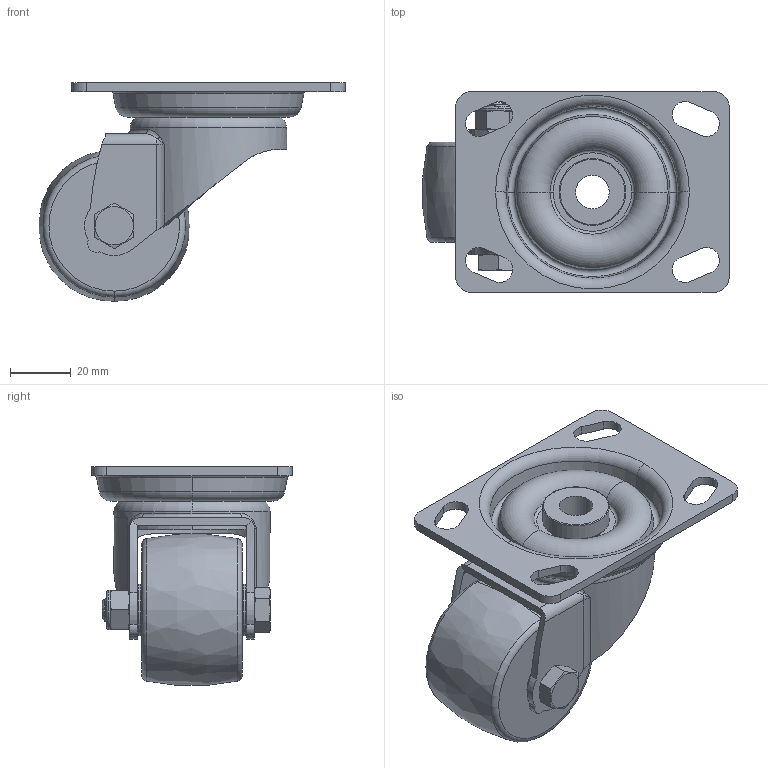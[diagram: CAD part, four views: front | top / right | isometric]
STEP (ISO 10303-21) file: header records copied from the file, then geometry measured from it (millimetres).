
FILE_DESCRIPTION((''),'2;1');
FILE_NAME('SZPS1W0050SWU5D0N-202953_ASM','2020-08-01T',('Administrator'),(''),'PRO/ENGINEER BY PARAMETRIC TECHNOLOGY CORPORATION, 2012480','PRO/ENGINEER BY PARAMETRIC TECHNOLOGY CORPORATION, 2012480','');
FILE_SCHEMA(('CONFIG_CONTROL_DESIGN'));
Length unit declared in the file: millimetre
Products named in the file (6): 321271-11; 330969-Z; 500304-M8-50; 500159_M8; 330969-01_ASM; SZPS1W0050SWU5D0N-202953_ASM
Assembly tree (5 placements, depth 3):
  SZPS1W0050SWU5D0N-202953_ASM
    321271-11
    330969-01_ASM
      330969-Z
      500304-M8-50
      500159_M8
Bounding box: 100.83 x 66 x 71.93 mm (x, y, z)
Volume: 111724 mm3; surface area: 39743.2 mm2
Topology: 4 solids, 4 shells, 259 faces, 626 edges, 385 vertices
Faces by surface type: cylinder 92, plane 51, torus 46, bspline 40, cone 30
Entity records: 12932 total; most frequent: CARTESIAN_POINT 6971, ORIENTED_EDGE 1252, DIRECTION 1173, EDGE_CURVE 626, AXIS2_PLACEMENT_3D 482, VERTEX_POINT 385, EDGE_LOOP 287, FACE_OUTER_BOUND 259
